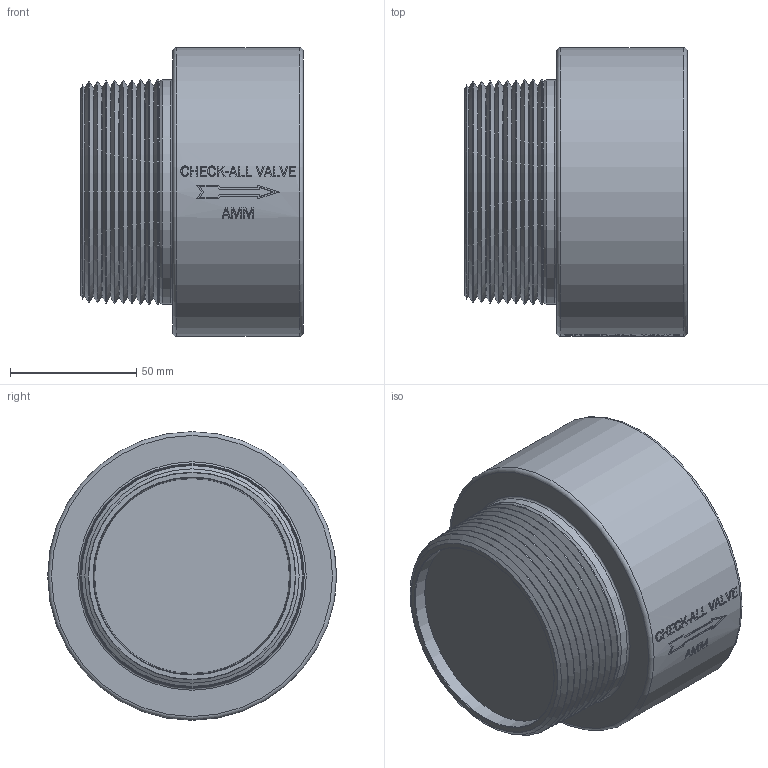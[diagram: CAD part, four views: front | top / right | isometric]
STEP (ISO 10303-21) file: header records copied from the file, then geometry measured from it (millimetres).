
FILE_DESCRIPTION(/* description */ ('Unknown'),/* implementation_level */ '2;1');
FILE_NAME(/* name */ 'AMMXXOR.500XX-WEB',/* time_stamp */ '2022-10-03T09:13:07-05:00',/* author */ ('Unknown'),/* organization */ ('Unknown'),/* preprocessor_version */ 'ST-DEVELOPER v18.102',/* originating_system */ 'Solid Edge',/* authorisation */ 'Unknown');
FILE_SCHEMA (('AUTOMOTIVE_DESIGN {1 0 10303 214 3 1 1}'));
Length unit declared in the file: inch
Products named in the file (1): AMMXXOR.500XX-WEB
Bounding box: 88.06 x 114.3 x 114.3 mm (x, y, z)
Volume: 590387.5 mm3; surface area: 75341 mm2
Topology: 1 solids, 2 shells, 297 faces, 738 edges, 469 vertices
Faces by surface type: plane 170, cone 75, cylinder 41, torus 7, bspline 4
Full cylindrical faces by diameter (mm): 51.435 x1, 60.325 x1, 75.123 x1, 82.552 x4, 88.9 x3, 114.3 x1
Entity records: 11623 total; most frequent: CARTESIAN_POINT 3249, ORIENTED_EDGE 1248, DIRECTION 1184, EDGE_CURVE 624, AXIS2_PLACEMENT_3D 481, VERTEX_POINT 449, EDGE_LOOP 417, FACE_BOUND 417
